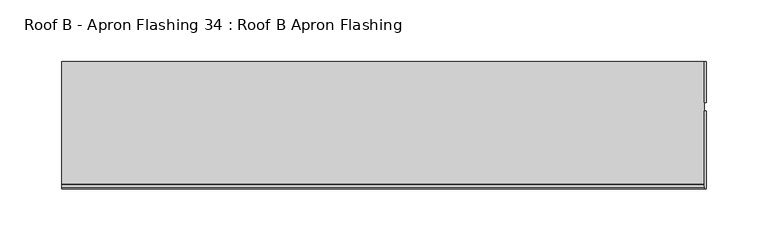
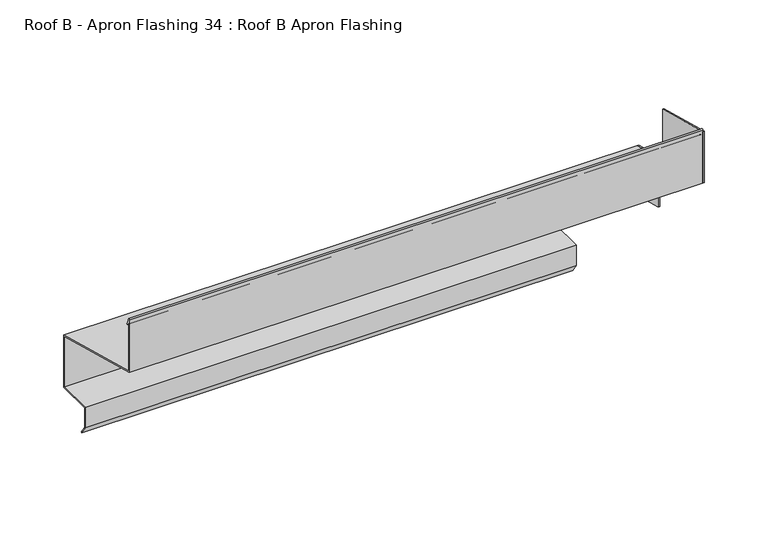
"""IFC4 building model written with IfcOpenShell, lengths in millimetres: proxy geometry, Roof B - Apron Flashing 34 : Roof B Apron Flashing."""

from ifc_helpers import new_model, si_unit, frame, origin, place, context, project, spatial, polyline, circle_curve, outline, extrude, source, transform, mapped, element, save
from ifc_brep_helpers import plane_surface, cylinder_surface, advanced_brep


def roof_b_apron_flashing_34_roof_b_apron_flashing_aff7704c(model_context):
    return source(origin(), model_context, "Body", "SolidModel", [
        extrude(outline(polyline([(-20608.0708536, -242.0096237), (-20608.0708536, -292.0096237), (-20609.0705591, -292.0096237), (-20609.0705591, -289.5944306), (-20640.9457855, -281.0534894), (-20640.9457855, -233.2008122), (-20608.0708536, -242.0096237)])), frame((11998.0650451, 0.0, 0.0), z_axis=(1.0, 0.0, 0.0), x_axis=(0.0, 1.0, 0.0)), (0.0, 0.0, 1.0), 1.3240587),
        extrude(outline(polyline([(-20647.8598724, -232.3834644), (-20710.9438355, -215.4801674), (-20710.9438355, -166.2122183), (-20647.8598724, -183.1155152), (-20647.8598724, -232.3834644)])), frame((11998.0650451, 0.0, 0.0), z_axis=(1.0, 0.0, 0.0), x_axis=(0.0, 1.0, 0.0)), (0.0, 0.0, 1.0), 1.3240587),
        advanced_brep(
        [(11998.0650451, -20608.0708536, -242.0096237), (11998.0650451, -20709.9438355, -214.7128405), (11998.0650451, -20709.9438355, -166.5489273), (11998.0650451, -20708.1479215, -170.9939705), (11998.0650451, -20707.2207377, -170.6193639), (11998.0650451, -20709.6351925, -164.6433784), (11998.0650451, -20710.9438355, -164.8977528), (11998.0650451, -20710.9438355, -215.4801674), (11998.0650451, -20609.0708536, -242.7769507), (11998.0650451, -20609.0705591, -292.0096237), (11998.0650451, -20608.0708536, -292.0096237), (11479.0344597, -20608.0708536, -242.0096237), (11479.0344597, -20608.0708536, -292.0096237), (11479.0344597, -20640.6742184, -292.0096237), (11479.0344597, -20640.6742184, -310.3959053), (11479.0344597, -20635.4633187, -317.8378413), (11479.0344597, -20636.2824708, -318.4114178), (11479.0344597, -20641.6742184, -310.7112041), (11479.0344597, -20641.6742184, -291.0096237), (11479.0344597, -20609.0708536, -291.0096237), (11479.0344597, -20609.0708536, -242.7769507), (11479.0344597, -20710.9438355, -215.4801674), (11479.0344597, -20710.9438355, -164.8977528), (11479.0344597, -20709.6351925, -164.6433784), (11479.0344597, -20707.2207377, -170.6193639), (11479.0344597, -20708.1479215, -170.9939705), (11479.0344597, -20709.9438355, -166.5489273), (11479.0344597, -20709.9438355, -214.7128405), (11923.5223206, -20609.0708536, -291.0096237), (11923.5223206, -20609.0708536, -292.0096237), (11923.5223206, -20641.6742184, -291.0096237), (11923.5223206, -20641.6742184, -310.7112041), (11923.5223206, -20640.6742184, -292.0096237), (11923.5223206, -20640.6742184, -310.3959053), (11923.5223206, -20636.2824708, -318.4114178), (11923.5223206, -20635.4633187, -317.8378413)],
        [
            (0, 1),
            (1, 2),
            (2, 3),
            (3, 4, circle_curve(frame((11998.0650451, -20707.6843296, -170.8066672), z_axis=(1.0, 0.0, 0.0), x_axis=(0.0, 0.24192189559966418, 0.9702957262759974)), 0.5)),
            (4, 5),
            (5, 6, circle_curve(frame((11998.0650451, -20710.2647913, -164.8977528), z_axis=(1.0, 0.0, 0.0), x_axis=(0.0, 0.0, 1.0)), 0.6790442)),
            (6, 7),
            (7, 8),
            (8, 9),
            (9, 10),
            (10, 0),
            (11, 12),
            (12, 13),
            (13, 14),
            (14, 15),
            (15, 16),
            (16, 17),
            (17, 18),
            (18, 19),
            (19, 20),
            (20, 21),
            (21, 22),
            (22, 23, circle_curve(frame((11479.0344597, -20710.2647913, -164.8977528), z_axis=(-1.0, 0.0, 0.0), x_axis=(0.0, 0.0, 1.0)), 0.6790442)),
            (23, 24),
            (24, 25, circle_curve(frame((11479.0344597, -20707.6843296, -170.8066672), z_axis=(-1.0, 0.0, 0.0), x_axis=(0.0, 0.24192189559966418, 0.9702957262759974)), 0.5)),
            (25, 26),
            (26, 27),
            (27, 11),
            (0, 11),
            (27, 1),
            (26, 2),
            (25, 3),
            (24, 4),
            (23, 5),
            (22, 6),
            (21, 7),
            (20, 8),
            (19, 28),
            (28, 29),
            (29, 9),
            (18, 30),
            (30, 28),
            (17, 31),
            (31, 30),
            (13, 32),
            (32, 33),
            (33, 14),
            (12, 10),
            (29, 32),
            (16, 34),
            (34, 31),
            (15, 35),
            (35, 34),
            (33, 35),
        ],
        [
            plane_surface(frame((11998.0650451, -20806.4759287, -298.0327356), z_axis=(1.0, 0.0, 0.0), x_axis=(0.0, 1.0, 0.0))),
            plane_surface(frame((11479.0344597, -20806.4759287, -298.0327356), z_axis=(-1.0, 0.0, 0.0), x_axis=(0.0, 1.0, 0.0))),
            plane_surface(frame((11998.0650451, -20608.0708536, -242.0096237), z_axis=(0.0, 0.25881904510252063, 0.9659258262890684), x_axis=(-1.0, 0.0, 0.0))),
            plane_surface(frame((11998.0650451, -20709.9438355, -214.7128405), z_axis=(0.0, 1.0, 0.0), x_axis=(-1.0, 0.0, 0.0))),
            plane_surface(frame((11998.0650451, -20709.9438355, -166.5489273), z_axis=(0.0, -0.9271838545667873, -0.3746065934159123), x_axis=(-1.0, 0.0, 0.0))),
            cylinder_surface(frame((11998.0650451, -20707.6843296, -170.8066672), z_axis=(1.0, 0.0, 0.0), x_axis=(0.0, 0.24192189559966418, 0.9702957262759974)), 0.5),
            plane_surface(frame((11998.0650451, -20707.2207377, -170.6193639), z_axis=(0.0, 0.9271838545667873, 0.3746065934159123), x_axis=(-1.0, 0.0, 0.0))),
            cylinder_surface(frame((11998.0650451, -20710.2647913, -164.8977528), z_axis=(1.0, 0.0, 0.0), x_axis=(0.0, 0.0, 1.0)), 0.6790442),
            plane_surface(frame((11998.0650451, -20710.9438355, -164.8977528), z_axis=(0.0, -1.0, 0.0), x_axis=(-1.0, 0.0, 0.0))),
            plane_surface(frame((11998.0650451, -20710.9438355, -215.4801674), z_axis=(0.0, -0.2588190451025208, -0.9659258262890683), x_axis=(-1.0, 0.0, 0.0))),
            plane_surface(frame((11998.0650451, -20609.0708536, -242.7769507), z_axis=(0.0, -1.0, 0.0), x_axis=(-1.0, 0.0, 0.0))),
            plane_surface(frame((11998.0650451, -20609.0708536, -291.0096237), z_axis=(0.0, 0.0, 1.0), x_axis=(-1.0, 0.0, 0.0))),
            plane_surface(frame((11998.0650451, -20641.6742184, -291.0096237), z_axis=(0.0, -1.0, 0.0), x_axis=(-1.0, 0.0, 0.0))),
            plane_surface(frame((11998.0650451, -20640.6742184, -310.3959053), z_axis=(0.0, 1.0, 0.0), x_axis=(-1.0, 0.0, 0.0))),
            plane_surface(frame((11998.0650451, -20640.6742184, -292.0096237), z_axis=(0.0, 0.0, -1.0), x_axis=(-1.0, 0.0, 0.0))),
            plane_surface(frame((11998.0650451, -20608.0708536, -292.0096237), z_axis=(0.0, 1.0, 0.0), x_axis=(-1.0, 0.0, 0.0))),
            plane_surface(frame((11998.0650451, -20641.6742184, -310.7112041), z_axis=(0.0, -0.8191520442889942, -0.5735764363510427), x_axis=(-1.0, 0.0, 0.0))),
            plane_surface(frame((11998.0650451, -20636.2824708, -318.4114178), z_axis=(0.0, 0.5735764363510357, -0.8191520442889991), x_axis=(-1.0, 0.0, 0.0))),
            plane_surface(frame((11998.0650451, -20635.4633187, -317.8378413), z_axis=(0.0, 0.8191520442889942, 0.5735764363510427), x_axis=(-1.0, 0.0, 0.0))),
            plane_surface(frame((11923.5223206, -20279.8742506, -605.2282213), z_axis=(1.0, 0.0, 0.0), x_axis=(0.0, -0.9659258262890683, 0.2588190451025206))),
        ],
        [
            (0, [[1, 2, 3, 4, 5, 6, 7, 8, 9, 10, 11]]),
            (1, [[12, 13, 14, 15, 16, 17, 18, 19, 20, 21, 22, 23, 24, 25, 26, 27, 28]]),
            (2, [[-1, 29, -28, 30]]),
            (3, [[-2, -30, -27, 31]]),
            (4, [[-3, -31, -26, 32]]),
            (5, [[-4, -32, -25, 33]]),
            (6, [[-5, -33, -24, 34]]),
            (7, [[-6, -34, -23, 35]]),
            (8, [[-7, -35, -22, 36]]),
            (9, [[-8, -36, -21, 37]]),
            (10, [[-20, 38, 39, 40, -9, -37]]),
            (11, [[-19, 41, 42, -38]]),
            (12, [[-18, 43, 44, -41]]),
            (13, [[-14, 45, 46, 47]]),
            (14, [[-13, 48, -10, -40, 49, -45]]),
            (15, [[-11, -48, -12, -29]]),
            (16, [[-17, 50, 51, -43]]),
            (17, [[-16, 52, 53, -50]]),
            (18, [[-15, -47, 54, -52]]),
            (19, [[-39, -42, -44, -51, -53, -54, -46, -49]]),
        ],
    ),
    ])


if __name__ == "__main__":
    model = new_model("IFC4")
    model_context = context("Model", 3, world=origin())
    ifc_project = project(units=[si_unit("LENGTHUNIT", "METRE", prefix="MILLI")], contexts=[model_context])
    site = spatial("IfcSite", under=ifc_project)
    building = spatial("IfcBuilding", under=site)
    placement = place(None, origin())
    roof_b_apron_flashing_34_roof_b_apron_flashing_shape = roof_b_apron_flashing_34_roof_b_apron_flashing_aff7704c(model_context)
    element("IfcBuildingElementProxy", 1, Name="Roof B - Apron Flashing 34 : Roof B Apron Flashing", ObjectType="Roof B - Apron Flashing 34 : Roof B Apron Flashing", at=placement, inside=building, context=model_context, shape_type="MappedRepresentation", body=[
        mapped(roof_b_apron_flashing_34_roof_b_apron_flashing_shape, transform((0.0, 0.0, 0.0), x_axis=(1.0, 0.0, 0.0), y_axis=(0.0, 1.0, 0.0), z_axis=(0.0, 0.0, 1.0))),
    ])
    save(model, "model.ifc")
